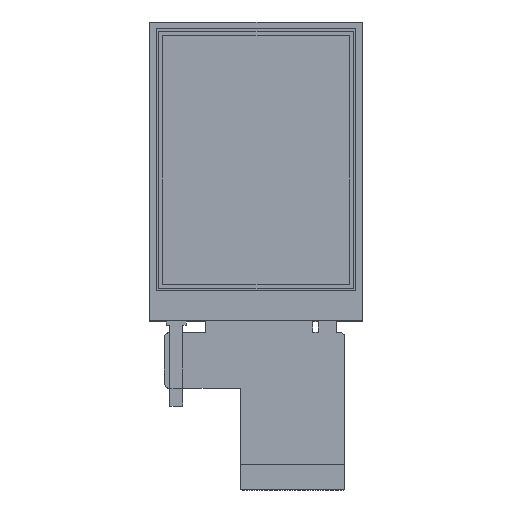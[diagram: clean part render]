
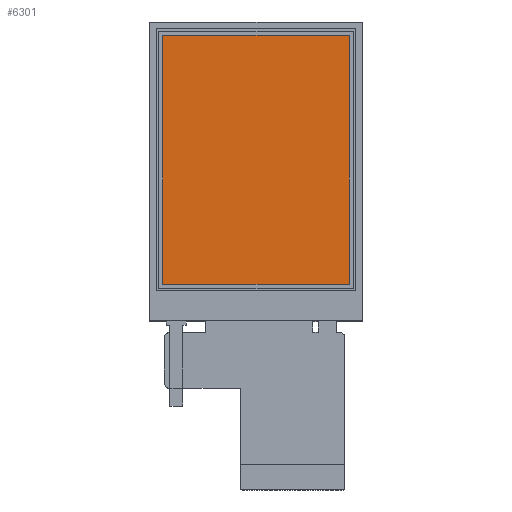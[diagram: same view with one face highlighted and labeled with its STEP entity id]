
A CAD part, top view. The second image highlights one B-rep face of the part: STEP entity #6301.
In plain terms, the highlighted planar face has unit normal (0, 0, 1).
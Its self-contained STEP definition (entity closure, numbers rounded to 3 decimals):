
#286 = EDGE_CURVE ( 'NONE', #4707, #855, #9843, .T. ) ;
#855 = VERTEX_POINT ( 'NONE', #7560 ) ;
#1174 = CARTESIAN_POINT ( 'NONE',  ( 18.36, 0., 3.25 ) ) ;
#1272 = EDGE_LOOP ( 'NONE', ( #14317, #9700, #5588, #5194 ) ) ;
#1575 = DIRECTION ( 'NONE',  ( 1., 0., 0. ) ) ;
#3313 = FACE_OUTER_BOUND ( 'NONE', #1272, .T. ) ;
#3786 = LINE ( 'NONE', #8730, #9357 ) ;
#3976 = CARTESIAN_POINT ( 'NONE',  ( -18.36, 0., 3.25 ) ) ;
#4707 = VERTEX_POINT ( 'NONE', #11272 ) ;
#5194 = ORIENTED_EDGE ( 'NONE', *, *, #12783, .F. ) ;
#5588 = ORIENTED_EDGE ( 'NONE', *, *, #9509, .F. ) ;
#5893 = DIRECTION ( 'NONE',  ( 0., -1., 0. ) ) ;
#6137 = LINE ( 'NONE', #1174, #12485 ) ;
#6301 = ADVANCED_FACE ( 'NONE', ( #3313 ), #6860, .T. ) ;
#6850 = VERTEX_POINT ( 'NONE', #9722 ) ;
#6860 = PLANE ( 'NONE',  #12126 ) ;
#7560 = CARTESIAN_POINT ( 'NONE',  ( -18.36, 26.85, 3.25 ) ) ;
#8010 = DIRECTION ( 'NONE',  ( 1., 0., 0. ) ) ;
#8502 = DIRECTION ( 'NONE',  ( -1., 0., 0. ) ) ;
#8730 = CARTESIAN_POINT ( 'NONE',  ( 0., -22.11, 3.25 ) ) ;
#9207 = EDGE_CURVE ( 'NONE', #6850, #4707, #3786, .T. ) ;
#9357 = VECTOR ( 'NONE', #8502, 1000. ) ;
#9509 = EDGE_CURVE ( 'NONE', #14491, #6850, #6137, .T. ) ;
#9694 = LINE ( 'NONE', #13179, #10702 ) ;
#9700 = ORIENTED_EDGE ( 'NONE', *, *, #9207, .F. ) ;
#9722 = CARTESIAN_POINT ( 'NONE',  ( 18.36, -22.11, 3.25 ) ) ;
#9843 = LINE ( 'NONE', #3976, #13294 ) ;
#10419 = CARTESIAN_POINT ( 'NONE',  ( 0., 0., 3.25 ) ) ;
#10702 = VECTOR ( 'NONE', #1575, 1000. ) ;
#11272 = CARTESIAN_POINT ( 'NONE',  ( -18.36, -22.11, 3.25 ) ) ;
#12126 = AXIS2_PLACEMENT_3D ( 'NONE', #10419, #15043, #8010 ) ;
#12244 = DIRECTION ( 'NONE',  ( 0., 1., 0. ) ) ;
#12485 = VECTOR ( 'NONE', #5893, 1000. ) ;
#12783 = EDGE_CURVE ( 'NONE', #855, #14491, #9694, .T. ) ;
#13179 = CARTESIAN_POINT ( 'NONE',  ( 0., 26.85, 3.25 ) ) ;
#13294 = VECTOR ( 'NONE', #12244, 1000. ) ;
#14317 = ORIENTED_EDGE ( 'NONE', *, *, #286, .F. ) ;
#14491 = VERTEX_POINT ( 'NONE', #14569 ) ;
#14569 = CARTESIAN_POINT ( 'NONE',  ( 18.36, 26.85, 3.25 ) ) ;
#15043 = DIRECTION ( 'NONE',  ( 0., 0., 1. ) ) ;
